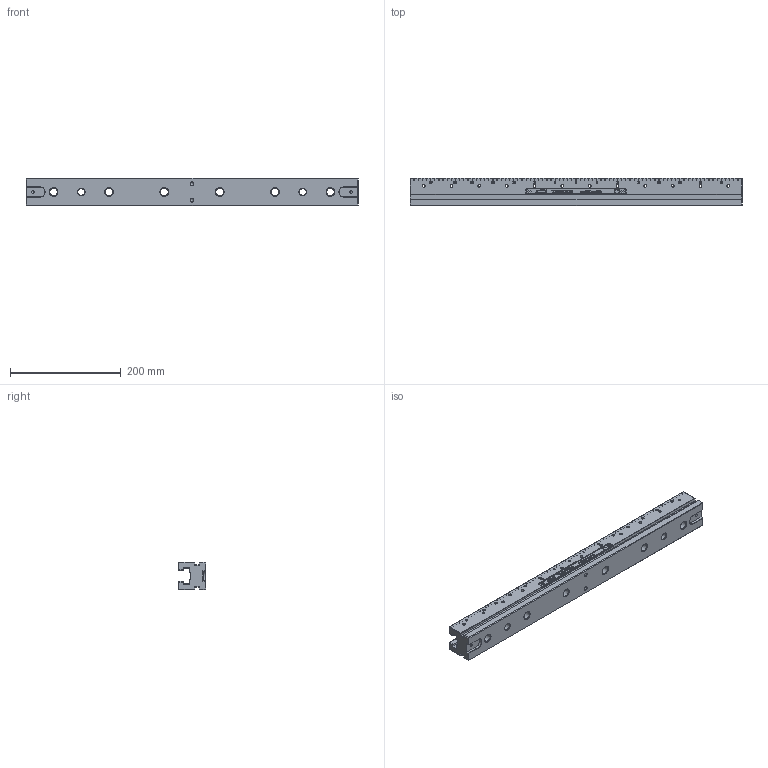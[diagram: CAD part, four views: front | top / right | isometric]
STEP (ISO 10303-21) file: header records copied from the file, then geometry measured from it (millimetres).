
FILE_DESCRIPTION (( 'STEP AP203' ), '1' );
FILE_NAME ('3D-6921328000655.STEP', '2023-09-15T12:15:13', ( '' ), ( '' ), 'SwSTEP 2.0', 'SolidWorks 2021', '' );
FILE_SCHEMA (( 'CONFIG_CONTROL_DESIGN' ));
Length unit declared in the file: millimetre
Products named in the file (4): 6921321050000; 8051100034014_Blindniet; 3D-6921328000655; 6921321000600
Assembly tree (4 placements, depth 2):
  3D-6921328000655
    6921321000600
    6921321050000
    8051100034014_Blindniet  x2
Bounding box: 599.5 x 50 x 50 mm (x, y, z)
Volume: 1086287 mm3; surface area: 189704.5 mm2
Topology: 4 solids, 4 shells, 5549 faces, 16046 edges, 10638 vertices
Faces by surface type: plane 3919, cylinder 882, bspline 668, cone 78, torus 2
Full cylindrical faces by diameter (mm): 2 x2, 3 x2, 3.1 x2, 3.8 x2, 5 x26, 6 x2, 12 x2, 14 x6, 20 x8
Entity records: 206946 total; most frequent: CARTESIAN_POINT 70605, ORIENTED_EDGE 31854, DIRECTION 22822, EDGE_CURVE 15927, LINE 12430, VECTOR 12430, VERTEX_POINT 10591, EDGE_LOOP 5816
